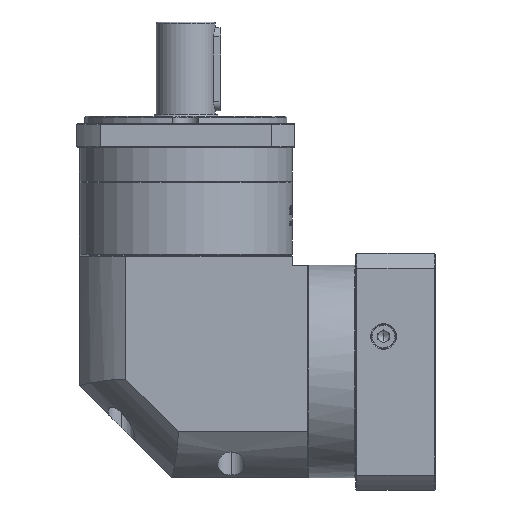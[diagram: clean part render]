
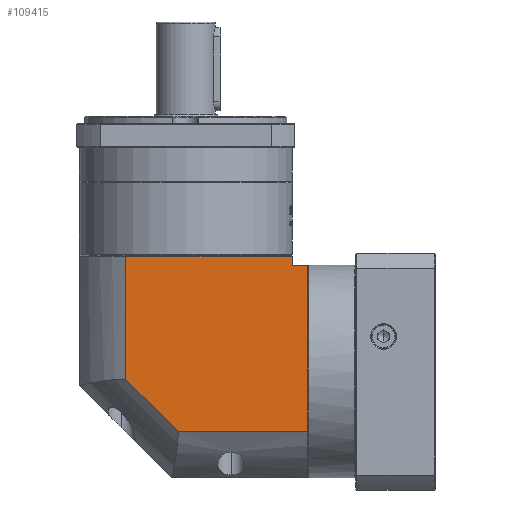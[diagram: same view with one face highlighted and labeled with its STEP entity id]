
A CAD part, left-side view. The second image highlights one B-rep face of the part: STEP entity #109415.
In plain terms, the highlighted planar face has unit normal (-1, 0, 0).
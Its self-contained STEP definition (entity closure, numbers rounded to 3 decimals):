
#560 = ORIENTED_EDGE ( 'NONE', *, *, #161563, .F. ) ;
#2383 = ORIENTED_EDGE ( 'NONE', *, *, #120516, .F. ) ;
#2432 = CARTESIAN_POINT ( 'NONE',  ( -216.152, -12.904, 132.258 ) ) ;
#4646 = ORIENTED_EDGE ( 'NONE', *, *, #51948, .F. ) ;
#7785 = CARTESIAN_POINT ( 'NONE',  ( -216.152, -136.304, 30.858 ) ) ;
#7811 = DIRECTION ( 'NONE',  ( 0., -1., 0. ) ) ;
#9786 = CARTESIAN_POINT ( 'NONE',  ( -216.152, -127.904, 5.758 ) ) ;
#10617 = FACE_OUTER_BOUND ( 'NONE', #24843, .T. ) ;
#12011 = DIRECTION ( 'NONE',  ( 0., 0., -1. ) ) ;
#12549 = LINE ( 'NONE', #98607, #137768 ) ;
#15559 = DIRECTION ( 'NONE',  ( 1., 0., 0. ) ) ;
#19047 = ORIENTED_EDGE ( 'NONE', *, *, #73794, .T. ) ;
#19318 = CARTESIAN_POINT ( 'NONE',  ( -216.152, -12.904, 125.758 ) ) ;
#20870 = VERTEX_POINT ( 'NONE', #122582 ) ;
#20929 = EDGE_CURVE ( 'NONE', #162599, #67240, #132928, .T. ) ;
#22533 = LINE ( 'NONE', #9786, #26576 ) ;
#24843 = EDGE_LOOP ( 'NONE', ( #133900, #2383, #4646, #560, #19047, #45593, #51222 ) ) ;
#26576 = VECTOR ( 'NONE', #48117, 1000. ) ;
#33832 = VECTOR ( 'NONE', #12011, 1000. ) ;
#38549 = CARTESIAN_POINT ( 'NONE',  ( -216.152, -127.904, 125.758 ) ) ;
#45593 = ORIENTED_EDGE ( 'NONE', *, *, #68288, .T. ) ;
#46213 = VERTEX_POINT ( 'NONE', #127019 ) ;
#48117 = DIRECTION ( 'NONE',  ( 0., 0., 1. ) ) ;
#49774 = VECTOR ( 'NONE', #115050, 1000. ) ;
#51222 = ORIENTED_EDGE ( 'NONE', *, *, #124547, .F. ) ;
#51948 = EDGE_CURVE ( 'NONE', #148681, #46213, #160717, .T. ) ;
#67240 = VERTEX_POINT ( 'NONE', #135773 ) ;
#68288 = EDGE_CURVE ( 'NONE', #20870, #110917, #22533, .T. ) ;
#73794 = EDGE_CURVE ( 'NONE', #159900, #20870, #12549, .T. ) ;
#76054 = CARTESIAN_POINT ( 'NONE',  ( -216.152, -66.343, 30.858 ) ) ;
#84533 = LINE ( 'NONE', #76054, #49774 ) ;
#90671 = VECTOR ( 'NONE', #128627, 1000. ) ;
#95480 = CARTESIAN_POINT ( 'NONE',  ( -216.152, -136.304, 120.758 ) ) ;
#98607 = CARTESIAN_POINT ( 'NONE',  ( -216.152, -127.904, 120.758 ) ) ;
#102008 = VECTOR ( 'NONE', #110430, 1000. ) ;
#104220 = CARTESIAN_POINT ( 'NONE',  ( -216.152, -136.304, 132.258 ) ) ;
#109415 = ADVANCED_FACE ( 'NONE', ( #10617 ), #132521, .F. ) ;
#110430 = DIRECTION ( 'NONE',  ( 0., 0., 1. ) ) ;
#110917 = VERTEX_POINT ( 'NONE', #38549 ) ;
#112496 = CARTESIAN_POINT ( 'NONE',  ( -216.152, -12.904, 30.858 ) ) ;
#113670 = LINE ( 'NONE', #104220, #33832 ) ;
#115050 = DIRECTION ( 'NONE',  ( 0., 0.707, 0.707 ) ) ;
#118709 = AXIS2_PLACEMENT_3D ( 'NONE', #2432, #15559, #131973 ) ;
#120516 = EDGE_CURVE ( 'NONE', #46213, #162599, #84533, .T. ) ;
#122582 = CARTESIAN_POINT ( 'NONE',  ( -216.152, -127.904, 120.758 ) ) ;
#124547 = EDGE_CURVE ( 'NONE', #67240, #110917, #167356, .T. ) ;
#127019 = CARTESIAN_POINT ( 'NONE',  ( -216.152, -66.343, 30.858 ) ) ;
#128627 = DIRECTION ( 'NONE',  ( 0., 1., 0. ) ) ;
#131973 = DIRECTION ( 'NONE',  ( 0., 1., 0. ) ) ;
#132521 = PLANE ( 'NONE',  #118709 ) ;
#132928 = LINE ( 'NONE', #135267, #102008 ) ;
#133900 = ORIENTED_EDGE ( 'NONE', *, *, #20929, .F. ) ;
#135267 = CARTESIAN_POINT ( 'NONE',  ( -216.152, -38.004, 132.258 ) ) ;
#135773 = CARTESIAN_POINT ( 'NONE',  ( -216.152, -38.004, 125.758 ) ) ;
#137768 = VECTOR ( 'NONE', #163689, 1000. ) ;
#148681 = VERTEX_POINT ( 'NONE', #7785 ) ;
#149260 = CARTESIAN_POINT ( 'NONE',  ( -216.152, -38.004, 59.196 ) ) ;
#159900 = VERTEX_POINT ( 'NONE', #95480 ) ;
#160717 = LINE ( 'NONE', #112496, #90671 ) ;
#161563 = EDGE_CURVE ( 'NONE', #159900, #148681, #113670, .T. ) ;
#162599 = VERTEX_POINT ( 'NONE', #149260 ) ;
#163689 = DIRECTION ( 'NONE',  ( 0., 1., 0. ) ) ;
#167356 = LINE ( 'NONE', #19318, #169495 ) ;
#169495 = VECTOR ( 'NONE', #7811, 1000. ) ;
